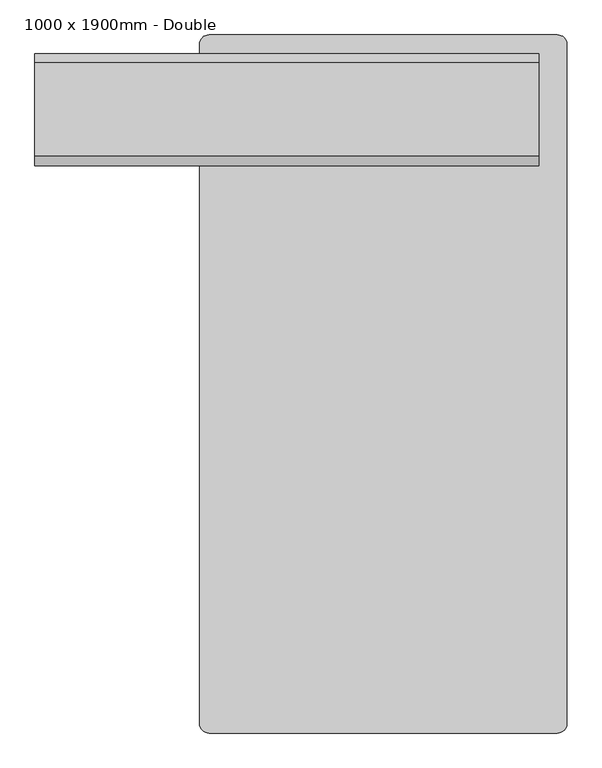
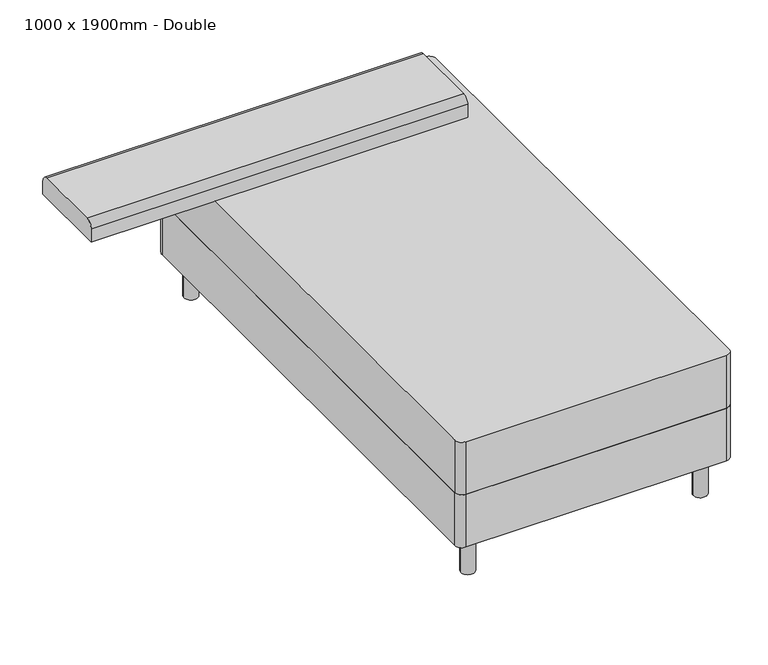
"""IFC4 building model written with IfcOpenShell, lengths in millimetres: furniture geometry, Postel : 1000 x 1900mm - Double."""

from ifc_helpers import new_model, si_unit, point, frame, frame_2d, origin, origin_with_axes, place, context, project, spatial, polyline, circle_curve, trimmed, segment, composite_curve, outline, extrude, source, transform, mapped, element, save


def furniture_1000_x_1900mm_double_9a6708bb(model_context):
    return source(origin(), model_context, "Body", "SweptSolid", [
        extrude(outline(composite_curve([segment(polyline([(-228.5114754, -970.195082), (-228.5114754, 879.004918)]), True, "CONTINUOUS"), segment(trimmed(circle_curve(frame_2d((-203.1114754, 879.004918)), 25.4), [point((-228.5114754, 879.004918))], [point((-203.1114754, 904.404918))], False, "CARTESIAN"), True, "CONTINUOUS"), segment(polyline([(-203.1114754, 904.404918), (746.0885246, 904.404918)]), True, "CONTINUOUS"), segment(trimmed(circle_curve(frame_2d((746.0885246, 879.004918)), 25.4), [point((746.0885246, 904.404918))], [point((771.4885246, 879.004918))], False, "CARTESIAN"), True, "CONTINUOUS"), segment(polyline([(771.4885246, 879.004918), (771.4885246, -970.195082)]), True, "CONTINUOUS"), segment(trimmed(circle_curve(frame_2d((746.0885246, -970.195082)), 25.4), [point((771.4885246, -970.195082))], [point((746.0885246, -995.595082))], False, "CARTESIAN"), True, "CONTINUOUS"), segment(polyline([(746.0885246, -995.595082), (-203.1114754, -995.595082)]), True, "CONTINUOUS"), segment(trimmed(circle_curve(frame_2d((-203.1114754, -970.195082)), 25.4), [point((-203.1114754, -995.595082))], [point((-228.5114754, -970.195082))], False, "CARTESIAN"), True, "CONTINUOUS")], self_intersect=False)), frame((0.0, 0.0, 152.4), z_axis=(0.0, 0.0, 1.0), x_axis=(1.0, 0.0, 0.0)), (0.0, 0.0, 1.0), 203.2),
        extrude(outline(composite_curve([segment(polyline([(548.804918, 558.8), (548.804918, 609.6)]), True, "CONTINUOUS"), segment(trimmed(circle_curve(frame_2d((574.204918, 609.6)), 25.4), [point((548.804918, 609.6))], [point((574.204918, 635.0))], False, "CARTESIAN"), True, "CONTINUOUS"), segment(polyline([(574.204918, 635.0), (828.204918, 635.0)]), True, "CONTINUOUS"), segment(trimmed(circle_curve(frame_2d((828.204918, 609.6)), 25.4), [point((828.204918, 635.0))], [point((853.604918, 609.6))], False, "CARTESIAN"), True, "CONTINUOUS"), segment(polyline([(853.604918, 609.6), (853.604918, 558.8), (548.804918, 558.8)]), True, "CONTINUOUS")], self_intersect=False)), frame((-677.3114754, 0.0, 0.0), z_axis=(1.0, 0.0, 0.0), x_axis=(0.0, 1.0, 0.0)), (0.0, 0.0, 1.0), 1372.6),
        extrude(outline(composite_curve([segment(trimmed(circle_curve(frame_2d((-152.3114754, 828.204918)), 25.4), [point((-177.7114754, 828.204918))], [point((-126.9114754, 828.204918))], False, "CARTESIAN"), True, "CONTINUOUS"), segment(trimmed(circle_curve(frame_2d((-152.3114754, 828.204918)), 25.4), [point((-126.9114754, 828.204918))], [point((-177.7114754, 828.204918))], False, "CARTESIAN"), True, "CONTINUOUS")], self_intersect=False)), origin_with_axes(), (0.0, 0.0, 1.0), 152.4),
        extrude(outline(composite_curve([segment(trimmed(circle_curve(frame_2d((695.2885246, 828.204918)), 25.4), [point((669.8885246, 828.204918))], [point((720.6885246, 828.204918))], False, "CARTESIAN"), True, "CONTINUOUS"), segment(trimmed(circle_curve(frame_2d((695.2885246, 828.204918)), 25.4), [point((720.6885246, 828.204918))], [point((669.8885246, 828.204918))], False, "CARTESIAN"), True, "CONTINUOUS")], self_intersect=False)), origin_with_axes(), (0.0, 0.0, 1.0), 152.4),
        extrude(outline(composite_curve([segment(trimmed(circle_curve(frame_2d((695.2885246, -919.395082)), 25.4), [point((669.8885246, -919.395082))], [point((720.6885246, -919.395082))], False, "CARTESIAN"), True, "CONTINUOUS"), segment(trimmed(circle_curve(frame_2d((695.2885246, -919.395082)), 25.4), [point((720.6885246, -919.395082))], [point((669.8885246, -919.395082))], False, "CARTESIAN"), True, "CONTINUOUS")], self_intersect=False)), origin_with_axes(), (0.0, 0.0, 1.0), 152.4),
        extrude(outline(composite_curve([segment(trimmed(circle_curve(frame_2d((-152.3114754, -919.395082)), 25.4), [point((-177.7114754, -919.395082))], [point((-126.9114754, -919.395082))], False, "CARTESIAN"), True, "CONTINUOUS"), segment(trimmed(circle_curve(frame_2d((-152.3114754, -919.395082)), 25.4), [point((-126.9114754, -919.395082))], [point((-177.7114754, -919.395082))], False, "CARTESIAN"), True, "CONTINUOUS")], self_intersect=False)), origin_with_axes(), (0.0, 0.0, 1.0), 152.4),
        extrude(outline(composite_curve([segment(polyline([(-203.1114754, 904.404918), (746.0885246, 904.404918)]), True, "CONTINUOUS"), segment(trimmed(circle_curve(frame_2d((746.0885246, 879.004918)), 25.4), [point((746.0885246, 904.404918))], [point((771.4885246, 879.004918))], False, "CARTESIAN"), True, "CONTINUOUS"), segment(polyline([(771.4885246, 879.004918), (771.4885246, -970.195082)]), True, "CONTINUOUS"), segment(trimmed(circle_curve(frame_2d((746.0885246, -970.195082)), 25.4), [point((771.4885246, -970.195082))], [point((746.0885246, -995.595082))], False, "CARTESIAN"), True, "CONTINUOUS"), segment(polyline([(746.0885246, -995.595082), (-203.1114754, -995.595082)]), True, "CONTINUOUS"), segment(trimmed(circle_curve(frame_2d((-203.1114754, -970.195082)), 25.4), [point((-203.1114754, -995.595082))], [point((-228.5114754, -970.195082))], False, "CARTESIAN"), True, "CONTINUOUS"), segment(polyline([(-228.5114754, -970.195082), (-228.5114754, 879.004918)]), True, "CONTINUOUS"), segment(trimmed(circle_curve(frame_2d((-203.1114754, 879.004918)), 25.4), [point((-228.5114754, 879.004918))], [point((-203.1114754, 904.404918))], False, "CARTESIAN"), True, "CONTINUOUS")], self_intersect=False)), frame((0.0, 0.0, 355.6), z_axis=(0.0, 0.0, 1.0), x_axis=(1.0, 0.0, 0.0)), (0.0, 0.0, 1.0), 203.2),
    ])


if __name__ == "__main__":
    model = new_model("IFC4")
    model_context = context("Model", 3, world=origin())
    ifc_project = project(units=[si_unit("LENGTHUNIT", "METRE", prefix="MILLI")], contexts=[model_context])
    site = spatial("IfcSite", under=ifc_project)
    building = spatial("IfcBuilding", under=site)
    placement = place(None, origin())
    furniture_1000_x_1900mm_double_shape = furniture_1000_x_1900mm_double_9a6708bb(model_context)
    element("IfcFurniture", 1, ObjectType="Postel : 1000 x 1900mm - Double", at=placement, inside=building, context=model_context, shape_type="MappedRepresentation", body=[
        mapped(furniture_1000_x_1900mm_double_shape, transform((0.0, 0.0, 0.0), x_axis=(1.0, 0.0, 0.0), y_axis=(0.0, 1.0, 0.0), z_axis=(0.0, 0.0, 1.0))),
    ])
    save(model, "model.ifc")
